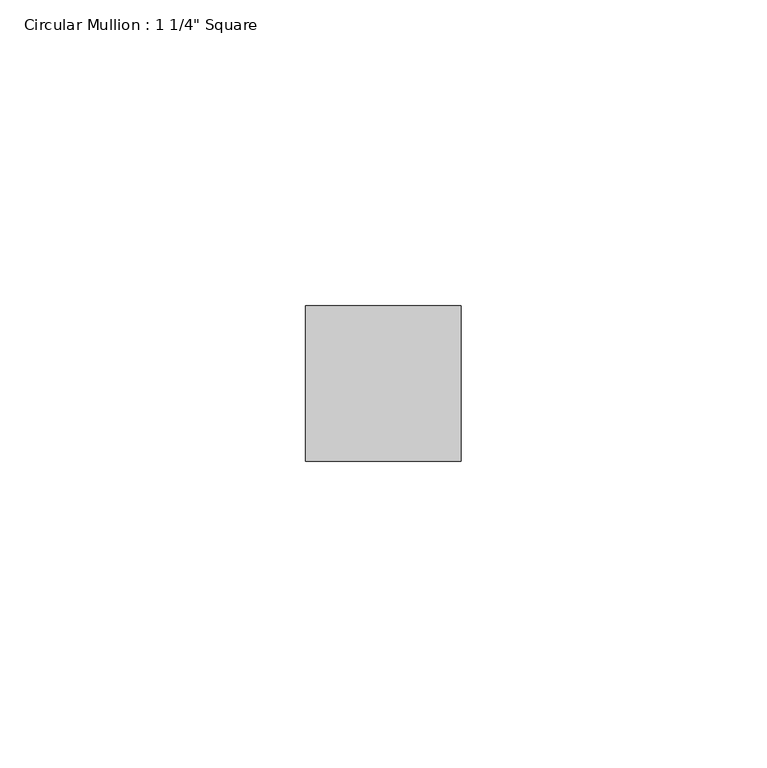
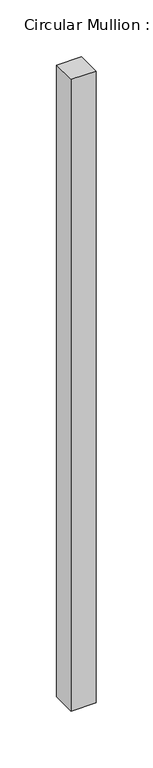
"""IFC4 building model written with IfcOpenShell, lengths in millimetres: member geometry."""

from ifc_helpers import new_model, si_unit, frame, origin, place, context, project, spatial, polyline, outline, extrude, source, transform, mapped, element, save


def member_0a6cf826(model_context):
    return source(origin(), model_context, "Body", "SweptSolid", [
        extrude(outline(polyline([(0.0, 12.7), (0.0, -12.7), (-25.4, -12.7), (-25.4, 12.7), (0.0, 12.7)])), frame((0.0, 0.0, -678.0697437), z_axis=(0.0, 0.0, 1.0), x_axis=(1.0, 0.0, 0.0)), (0.0, 0.0, 1.0), 678.0697437),
    ])


if __name__ == "__main__":
    model = new_model("IFC4")
    model_context = context("Model", 3, world=origin())
    ifc_project = project(units=[si_unit("LENGTHUNIT", "METRE", prefix="MILLI")], contexts=[model_context])
    site = spatial("IfcSite", under=ifc_project)
    building = spatial("IfcBuilding", under=site)
    placement = place(None, origin())
    member_shape = member_0a6cf826(model_context)
    element("IfcMember", 1, ObjectType="Circular Mullion : 1 1/4\" Square", at=placement, inside=building, context=model_context, shape_type="MappedRepresentation", body=[
        mapped(member_shape, transform((0.0, 0.0, 0.0), x_axis=(1.0, 0.0, 0.0), y_axis=(0.0, 1.0, 0.0), z_axis=(0.0, 0.0, 1.0))),
    ])
    save(model, "model.ifc")
